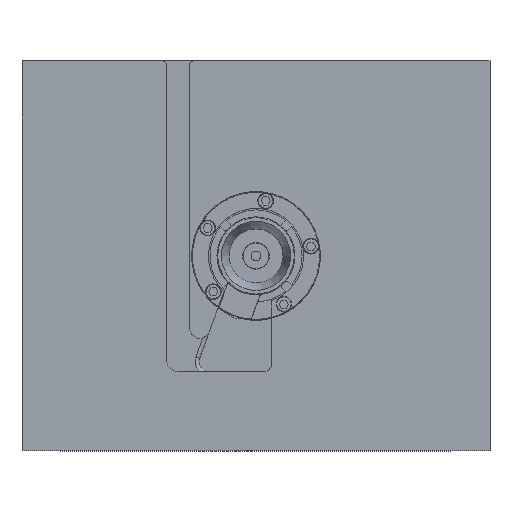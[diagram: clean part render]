
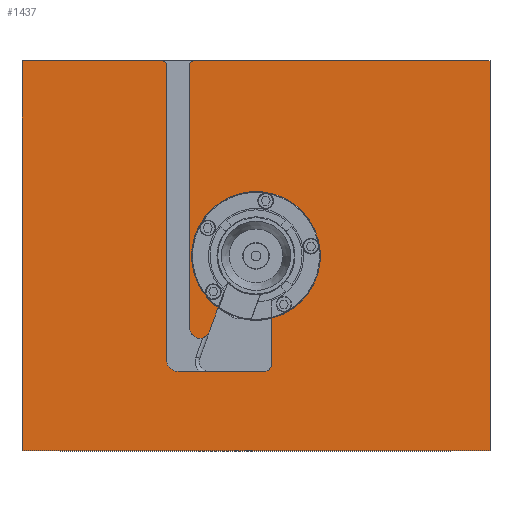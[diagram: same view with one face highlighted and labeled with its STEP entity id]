
A CAD part, top view. The second image highlights one B-rep face of the part: STEP entity #1437.
In plain terms, the highlighted planar face has unit normal (0, 0, 1).
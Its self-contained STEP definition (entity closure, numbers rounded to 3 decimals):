
#1437 = ADVANCED_FACE( '', ( #3218 ), #3219, .F. );
#3218 = FACE_OUTER_BOUND( '', #5551, .T. );
#3219 = PLANE( '', #5552 );
#5551 = EDGE_LOOP( '', ( #8985, #8986, #8987, #8988, #8989, #8990, #8991, #8992, #8993, #8994, #8995, #8996, #8997, #8998, #8999, #9000 ) );
#5552 = AXIS2_PLACEMENT_3D( '', #9001, #9002, #9003 );
#8985 = ORIENTED_EDGE( '', *, *, #12463, .F. );
#8986 = ORIENTED_EDGE( '', *, *, #12155, .T. );
#8987 = ORIENTED_EDGE( '', *, *, #12464, .T. );
#8988 = ORIENTED_EDGE( '', *, *, #11771, .T. );
#8989 = ORIENTED_EDGE( '', *, *, #12206, .T. );
#8990 = ORIENTED_EDGE( '', *, *, #12465, .F. );
#8991 = ORIENTED_EDGE( '', *, *, #11639, .T. );
#8992 = ORIENTED_EDGE( '', *, *, #12466, .F. );
#8993 = ORIENTED_EDGE( '', *, *, #12467, .F. );
#8994 = ORIENTED_EDGE( '', *, *, #12468, .T. );
#8995 = ORIENTED_EDGE( '', *, *, #12092, .F. );
#8996 = ORIENTED_EDGE( '', *, *, #12469, .T. );
#8997 = ORIENTED_EDGE( '', *, *, #12470, .F. );
#8998 = ORIENTED_EDGE( '', *, *, #12471, .F. );
#8999 = ORIENTED_EDGE( '', *, *, #12472, .F. );
#9000 = ORIENTED_EDGE( '', *, *, #12174, .F. );
#9001 = CARTESIAN_POINT( '', ( 300., -250., 0. ) );
#9002 = DIRECTION( '', ( 0., 0., -1. ) );
#9003 = DIRECTION( '', ( 0., -1., 0. ) );
#11639 = EDGE_CURVE( '', #13501, #13499, #13502, .F. );
#11771 = EDGE_CURVE( '', #13717, #13720, #13722, .F. );
#12092 = EDGE_CURVE( '', #14239, #14241, #14242, .F. );
#12155 = EDGE_CURVE( '', #14340, #14338, #14341, .F. );
#12174 = EDGE_CURVE( '', #14365, #14366, #14367, .T. );
#12206 = EDGE_CURVE( '', #13720, #14410, #14412, .F. );
#12463 = EDGE_CURVE( '', #14340, #14365, #14790, .T. );
#12464 = EDGE_CURVE( '', #14338, #13717, #14791, .T. );
#12465 = EDGE_CURVE( '', #13501, #14410, #14792, .F. );
#12466 = EDGE_CURVE( '', #14793, #13499, #14794, .F. );
#12467 = EDGE_CURVE( '', #14795, #14793, #14796, .T. );
#12468 = EDGE_CURVE( '', #14795, #14241, #14797, .T. );
#12469 = EDGE_CURVE( '', #14239, #14798, #14799, .F. );
#12470 = EDGE_CURVE( '', #14800, #14798, #14801, .T. );
#12471 = EDGE_CURVE( '', #14802, #14800, #14803, .T. );
#12472 = EDGE_CURVE( '', #14366, #14802, #14804, .T. );
#13499 = VERTEX_POINT( '', #16131 );
#13501 = VERTEX_POINT( '', #16134 );
#13502 = LINE( '', #16135, #16136 );
#13717 = VERTEX_POINT( '', #16412 );
#13720 = VERTEX_POINT( '', #16416 );
#13722 = CIRCLE( '', #16419, 13. );
#14239 = VERTEX_POINT( '', #17111 );
#14241 = VERTEX_POINT( '', #17114 );
#14242 = LINE( '', #17115, #17116 );
#14338 = VERTEX_POINT( '', #17242 );
#14340 = VERTEX_POINT( '', #17245 );
#14341 = CIRCLE( '', #17246, 5. );
#14365 = VERTEX_POINT( '', #17275 );
#14366 = VERTEX_POINT( '', #17276 );
#14367 = LINE( '', #17277, #17278 );
#14410 = VERTEX_POINT( '', #17338 );
#14412 = LINE( '', #17341, #17342 );
#14790 = LINE( '', #17835, #17836 );
#14791 = LINE( '', #17837, #17838 );
#14792 = CIRCLE( '', #17839, 82.5 );
#14793 = VERTEX_POINT( '', #17840 );
#14794 = CIRCLE( '', #17841, 8.853 );
#14795 = VERTEX_POINT( '', #17842 );
#14796 = LINE( '', #17843, #17844 );
#14797 = CIRCLE( '', #17845, 15. );
#14798 = VERTEX_POINT( '', #17846 );
#14799 = CIRCLE( '', #17847, 5. );
#14800 = VERTEX_POINT( '', #17848 );
#14801 = LINE( '', #17849, #17850 );
#14802 = VERTEX_POINT( '', #17851 );
#14803 = LINE( '', #17852, #17853 );
#14804 = LINE( '', #17854, #17855 );
#16131 = CARTESIAN_POINT( '', ( 20., -139.147, 0. ) );
#16134 = CARTESIAN_POINT( '', ( 20., -80.039, 0. ) );
#16135 = CARTESIAN_POINT( '', ( 20., -250., 0. ) );
#16136 = VECTOR( '', #19221, 1000. );
#16412 = CARTESIAN_POINT( '', ( -85., -92.561, 0. ) );
#16416 = CARTESIAN_POINT( '', ( -59.784, -97.008, 0. ) );
#16419 = AXIS2_PLACEMENT_3D( '', #19416, #19417, #19418 );
#17111 = CARTESIAN_POINT( '', ( -115., 245., 0. ) );
#17114 = CARTESIAN_POINT( '', ( -115., -133., 0. ) );
#17115 = CARTESIAN_POINT( '', ( -115., 260., 0. ) );
#17116 = VECTOR( '', #19853, 1000. );
#17242 = CARTESIAN_POINT( '', ( -85., 245., 0. ) );
#17245 = CARTESIAN_POINT( '', ( -80., 250., 0. ) );
#17246 = AXIS2_PLACEMENT_3D( '', #19927, #19928, #19929 );
#17275 = CARTESIAN_POINT( '', ( 300., 250., 0. ) );
#17276 = CARTESIAN_POINT( '', ( 300., -250., 0. ) );
#17277 = CARTESIAN_POINT( '', ( 300., 250., 0. ) );
#17278 = VECTOR( '', #19953, 1000. );
#17338 = CARTESIAN_POINT( '', ( -48.711, -66.585, 0. ) );
#17341 = CARTESIAN_POINT( '', ( -66.868, -116.471, 0. ) );
#17342 = VECTOR( '', #19984, 1000. );
#17835 = CARTESIAN_POINT( '', ( -300., 250., 0. ) );
#17836 = VECTOR( '', #20292, 1000. );
#17837 = CARTESIAN_POINT( '', ( -85., -250., 0. ) );
#17838 = VECTOR( '', #20293, 1000. );
#17839 = AXIS2_PLACEMENT_3D( '', #20294, #20295, #20296 );
#17840 = CARTESIAN_POINT( '', ( 11.147, -148., 0. ) );
#17841 = AXIS2_PLACEMENT_3D( '', #20297, #20298, #20299 );
#17842 = CARTESIAN_POINT( '', ( -100., -148., 0. ) );
#17843 = CARTESIAN_POINT( '', ( -60.404, -148., 0. ) );
#17844 = VECTOR( '', #20300, 1000. );
#17845 = AXIS2_PLACEMENT_3D( '', #20301, #20302, #20303 );
#17846 = CARTESIAN_POINT( '', ( -120., 250., 0. ) );
#17847 = AXIS2_PLACEMENT_3D( '', #20304, #20305, #20306 );
#17848 = CARTESIAN_POINT( '', ( -300., 250., 0. ) );
#17849 = CARTESIAN_POINT( '', ( -300., 250., 0. ) );
#17850 = VECTOR( '', #20307, 1000. );
#17851 = CARTESIAN_POINT( '', ( -300., -250., 0. ) );
#17852 = CARTESIAN_POINT( '', ( -300., -250., 0. ) );
#17853 = VECTOR( '', #20308, 1000. );
#17854 = CARTESIAN_POINT( '', ( 300., -250., 0. ) );
#17855 = VECTOR( '', #20309, 1000. );
#19221 = DIRECTION( '', ( 0., 1., 0. ) );
#19416 = CARTESIAN_POINT( '', ( -72., -92.561, 0. ) );
#19417 = DIRECTION( '', ( 0., 0., -1. ) );
#19418 = DIRECTION( '', ( -1., 0., 0. ) );
#19853 = DIRECTION( '', ( 0., 1., 0. ) );
#19927 = CARTESIAN_POINT( '', ( -80., 245., 0. ) );
#19928 = DIRECTION( '', ( 0., 0., -1. ) );
#19929 = DIRECTION( '', ( -1., 0., 0. ) );
#19953 = DIRECTION( '', ( 0., -1., 0. ) );
#19984 = DIRECTION( '', ( -0.342, -0.94, 0. ) );
#20292 = DIRECTION( '', ( 1., 0., 0. ) );
#20293 = DIRECTION( '', ( 0., -1., 0. ) );
#20294 = CARTESIAN_POINT( '', ( 0., 0., 0. ) );
#20295 = DIRECTION( '', ( 0., 0., -1. ) );
#20296 = DIRECTION( '', ( -1., 0., 0. ) );
#20297 = CARTESIAN_POINT( '', ( 11.147, -139.147, 0. ) );
#20298 = DIRECTION( '', ( 0., 0., -1. ) );
#20299 = DIRECTION( '', ( -1., 0., 0. ) );
#20300 = DIRECTION( '', ( 1., 0., 0. ) );
#20301 = CARTESIAN_POINT( '', ( -100., -133., 0. ) );
#20302 = DIRECTION( '', ( 0., 0., -1. ) );
#20303 = DIRECTION( '', ( -1., 0., 0. ) );
#20304 = CARTESIAN_POINT( '', ( -120., 245., 0. ) );
#20305 = DIRECTION( '', ( 0., 0., -1. ) );
#20306 = DIRECTION( '', ( -1., 0., 0. ) );
#20307 = DIRECTION( '', ( 1., 0., 0. ) );
#20308 = DIRECTION( '', ( 0., 1., 0. ) );
#20309 = DIRECTION( '', ( -1., 0., 0. ) );
